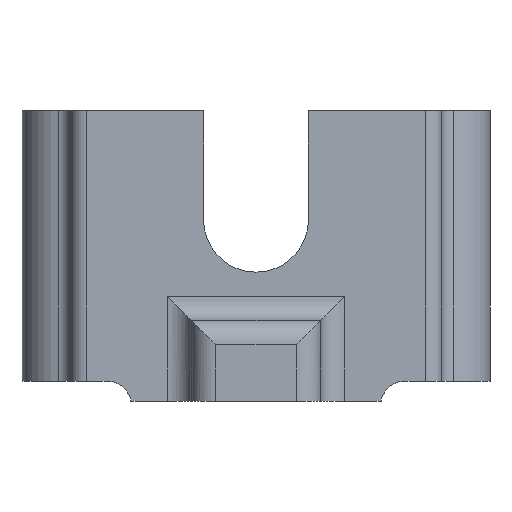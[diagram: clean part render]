
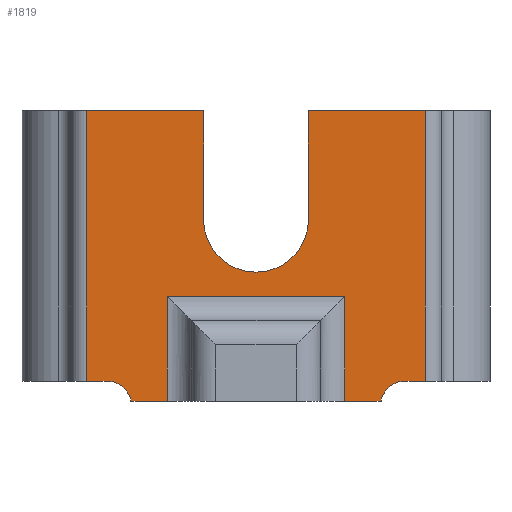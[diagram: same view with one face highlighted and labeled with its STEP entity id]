
A CAD part, front view. The second image highlights one B-rep face of the part: STEP entity #1819.
In plain terms, the highlighted planar face has unit normal (0, -1, 0).
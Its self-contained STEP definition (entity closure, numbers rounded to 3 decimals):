
#2 = VERTEX_POINT ( 'NONE', #800 ) ;
#14 = LINE ( 'NONE', #2446, #2086 ) ;
#15 = LINE ( 'NONE', #469, #2179 ) ;
#72 = ORIENTED_EDGE ( 'NONE', *, *, #557, .F. ) ;
#101 = ORIENTED_EDGE ( 'NONE', *, *, #1072, .F. ) ;
#108 = LINE ( 'NONE', #2270, #775 ) ;
#109 = ORIENTED_EDGE ( 'NONE', *, *, #383, .T. ) ;
#128 = VERTEX_POINT ( 'NONE', #561 ) ;
#130 = CARTESIAN_POINT ( 'NONE',  ( 16.176, -0.642, 16.468 ) ) ;
#158 = CIRCLE ( 'NONE', #885, 6.5 ) ;
#178 = EDGE_LOOP ( 'NONE', ( #2550, #1339, #2568, #1761, #1993, #467, #658, #1454, #475, #2172, #224, #1467, #521, #72, #511, #101, #109 ) ) ;
#186 = VERTEX_POINT ( 'NONE', #2585 ) ;
#207 = AXIS2_PLACEMENT_3D ( 'NONE', #1368, #2181, #376 ) ;
#215 = CARTESIAN_POINT ( 'NONE',  ( 4.227, -0.642, -3.532 ) ) ;
#224 = ORIENTED_EDGE ( 'NONE', *, *, #2467, .F. ) ;
#243 = VECTOR ( 'NONE', #1481, 1000. ) ;
#261 = CARTESIAN_POINT ( 'NONE',  ( 33.666, -0.642, 6.968 ) ) ;
#273 = CARTESIAN_POINT ( 'NONE',  ( 33.666, -0.642, -6.032 ) ) ;
#274 = VERTEX_POINT ( 'NONE', #215 ) ;
#310 = DIRECTION ( 'NONE',  ( 0., 0., -1. ) ) ;
#335 = VERTEX_POINT ( 'NONE', #261 ) ;
#340 = DIRECTION ( 'NONE',  ( 0., -1., 0. ) ) ;
#341 = VERTEX_POINT ( 'NONE', #2256 ) ;
#375 = VERTEX_POINT ( 'NONE', #600 ) ;
#376 = DIRECTION ( 'NONE',  ( 0., 0., -1. ) ) ;
#383 = EDGE_CURVE ( 'NONE', #375, #671, #668, .T. ) ;
#393 = EDGE_CURVE ( 'NONE', #335, #1073, #1696, .T. ) ;
#422 = DIRECTION ( 'NONE',  ( 0., -1., 0. ) ) ;
#436 = EDGE_CURVE ( 'NONE', #341, #871, #1682, .T. ) ;
#455 = EDGE_CURVE ( 'NONE', #186, #2, #108, .T. ) ;
#456 = CARTESIAN_POINT ( 'NONE',  ( 30.666, -0.642, 6.968 ) ) ;
#461 = DIRECTION ( 'NONE',  ( 0., 0., -1. ) ) ;
#467 = ORIENTED_EDGE ( 'NONE', *, *, #737, .T. ) ;
#469 = CARTESIAN_POINT ( 'NONE',  ( 43.666, -0.642, 92.301 ) ) ;
#475 = ORIENTED_EDGE ( 'NONE', *, *, #1550, .F. ) ;
#495 = DIRECTION ( 'NONE',  ( 0., 0., -1. ) ) ;
#511 = ORIENTED_EDGE ( 'NONE', *, *, #951, .T. ) ;
#521 = ORIENTED_EDGE ( 'NONE', *, *, #2243, .T. ) ;
#557 = EDGE_CURVE ( 'NONE', #274, #128, #1352, .T. ) ;
#561 = CARTESIAN_POINT ( 'NONE',  ( 1.685, -0.642, -3.532 ) ) ;
#563 = FACE_OUTER_BOUND ( 'NONE', #178, .T. ) ;
#573 = EDGE_CURVE ( 'NONE', #2257, #1297, #2364, .T. ) ;
#600 = CARTESIAN_POINT ( 'NONE',  ( 11.685, -0.642, -6.032 ) ) ;
#609 = DIRECTION ( 'NONE',  ( 0., 0., 1. ) ) ;
#630 = EDGE_CURVE ( 'NONE', #823, #1297, #1873, .T. ) ;
#655 = CARTESIAN_POINT ( 'NONE',  ( 11.685, -0.642, 92.301 ) ) ;
#658 = ORIENTED_EDGE ( 'NONE', *, *, #2423, .F. ) ;
#668 = LINE ( 'NONE', #655, #942 ) ;
#671 = VERTEX_POINT ( 'NONE', #1472 ) ;
#674 = EDGE_CURVE ( 'NONE', #671, #335, #1591, .T. ) ;
#675 = DIRECTION ( 'NONE',  ( 0., 1., 0. ) ) ;
#732 = AXIS2_PLACEMENT_3D ( 'NONE', #1546, #340, #1394 ) ;
#737 = EDGE_CURVE ( 'NONE', #2257, #2112, #15, .T. ) ;
#743 = DIRECTION ( 'NONE',  ( -1., 0., 0. ) ) ;
#775 = VECTOR ( 'NONE', #495, 1000. ) ;
#800 = CARTESIAN_POINT ( 'NONE',  ( 29.176, -0.642, 16.468 ) ) ;
#810 = LINE ( 'NONE', #1816, #1410 ) ;
#823 = VERTEX_POINT ( 'NONE', #1126 ) ;
#829 = DIRECTION ( 'NONE',  ( 0., 0., -1. ) ) ;
#848 = VECTOR ( 'NONE', #461, 1000. ) ;
#871 = VERTEX_POINT ( 'NONE', #2513 ) ;
#885 = AXIS2_PLACEMENT_3D ( 'NONE', #1651, #422, #2217 ) ;
#912 = CARTESIAN_POINT ( 'NONE',  ( 0., -0.642, -3.532 ) ) ;
#942 = VECTOR ( 'NONE', #1925, 1000. ) ;
#947 = VERTEX_POINT ( 'NONE', #2437 ) ;
#951 = EDGE_CURVE ( 'NONE', #274, #1441, #1834, .T. ) ;
#1011 = DIRECTION ( 'NONE',  ( 1., 0., 0. ) ) ;
#1040 = CARTESIAN_POINT ( 'NONE',  ( 43.666, -0.642, 29.968 ) ) ;
#1072 = EDGE_CURVE ( 'NONE', #375, #1441, #1719, .T. ) ;
#1073 = VERTEX_POINT ( 'NONE', #1322 ) ;
#1126 = CARTESIAN_POINT ( 'NONE',  ( 38.166, -0.642, -6.032 ) ) ;
#1192 = DIRECTION ( 'NONE',  ( -1., 0., 0. ) ) ;
#1259 = DIRECTION ( 'NONE',  ( 1., 0., 0. ) ) ;
#1294 = CARTESIAN_POINT ( 'NONE',  ( 22.676, -0.642, 16.468 ) ) ;
#1297 = VERTEX_POINT ( 'NONE', #2226 ) ;
#1322 = CARTESIAN_POINT ( 'NONE',  ( 33.666, -0.642, -6.032 ) ) ;
#1327 = DIRECTION ( 'NONE',  ( -1., 0., 0. ) ) ;
#1339 = ORIENTED_EDGE ( 'NONE', *, *, #393, .T. ) ;
#1352 = LINE ( 'NONE', #912, #1961 ) ;
#1368 = CARTESIAN_POINT ( 'NONE',  ( 41.124, -0.642, -6.532 ) ) ;
#1394 = DIRECTION ( 'NONE',  ( 0., 0., -1. ) ) ;
#1410 = VECTOR ( 'NONE', #1192, 1000. ) ;
#1441 = VERTEX_POINT ( 'NONE', #2107 ) ;
#1453 = VERTEX_POINT ( 'NONE', #130 ) ;
#1454 = ORIENTED_EDGE ( 'NONE', *, *, #455, .T. ) ;
#1467 = ORIENTED_EDGE ( 'NONE', *, *, #436, .F. ) ;
#1472 = CARTESIAN_POINT ( 'NONE',  ( 11.685, -0.642, 6.968 ) ) ;
#1481 = DIRECTION ( 'NONE',  ( 1., 0., 0. ) ) ;
#1512 = CARTESIAN_POINT ( 'NONE',  ( 43.666, -0.642, -3.532 ) ) ;
#1522 = DIRECTION ( 'NONE',  ( -1., 0., 0. ) ) ;
#1546 = CARTESIAN_POINT ( 'NONE',  ( 0., -0.642, 92.301 ) ) ;
#1550 = EDGE_CURVE ( 'NONE', #947, #2, #1929, .T. ) ;
#1591 = LINE ( 'NONE', #456, #2176 ) ;
#1603 = DIRECTION ( 'NONE',  ( 0., 0., -1. ) ) ;
#1651 = CARTESIAN_POINT ( 'NONE',  ( 22.676, -0.642, 16.468 ) ) ;
#1662 = VECTOR ( 'NONE', #743, 1000. ) ;
#1682 = LINE ( 'NONE', #1882, #243 ) ;
#1692 = LINE ( 'NONE', #1905, #848 ) ;
#1696 = LINE ( 'NONE', #273, #1703 ) ;
#1703 = VECTOR ( 'NONE', #310, 1000. ) ;
#1719 = LINE ( 'NONE', #2526, #2515 ) ;
#1733 = CARTESIAN_POINT ( 'NONE',  ( 0., -0.642, -3.532 ) ) ;
#1761 = ORIENTED_EDGE ( 'NONE', *, *, #630, .T. ) ;
#1786 = EDGE_CURVE ( 'NONE', #823, #1073, #810, .T. ) ;
#1816 = CARTESIAN_POINT ( 'NONE',  ( 0., -0.642, -6.032 ) ) ;
#1819 = ADVANCED_FACE ( 'NONE', ( #563 ), #2169, .T. ) ;
#1822 = LINE ( 'NONE', #2203, #1956 ) ;
#1834 = CIRCLE ( 'NONE', #2093, 3. ) ;
#1873 = CIRCLE ( 'NONE', #207, 3. ) ;
#1882 = CARTESIAN_POINT ( 'NONE',  ( 0., -0.642, 29.968 ) ) ;
#1905 = CARTESIAN_POINT ( 'NONE',  ( 1.685, -0.642, -3.532 ) ) ;
#1925 = DIRECTION ( 'NONE',  ( 0., 0., 1. ) ) ;
#1929 = CIRCLE ( 'NONE', #2316, 6.5 ) ;
#1956 = VECTOR ( 'NONE', #1011, 1000. ) ;
#1961 = VECTOR ( 'NONE', #1327, 1000. ) ;
#1993 = ORIENTED_EDGE ( 'NONE', *, *, #573, .F. ) ;
#2003 = EDGE_CURVE ( 'NONE', #1453, #947, #158, .T. ) ;
#2086 = VECTOR ( 'NONE', #1603, 1000. ) ;
#2093 = AXIS2_PLACEMENT_3D ( 'NONE', #2238, #675, #829 ) ;
#2107 = CARTESIAN_POINT ( 'NONE',  ( 7.185, -0.642, -6.032 ) ) ;
#2112 = VERTEX_POINT ( 'NONE', #1040 ) ;
#2169 = PLANE ( 'NONE',  #732 ) ;
#2172 = ORIENTED_EDGE ( 'NONE', *, *, #2003, .F. ) ;
#2176 = VECTOR ( 'NONE', #1259, 1000. ) ;
#2179 = VECTOR ( 'NONE', #609, 1000. ) ;
#2181 = DIRECTION ( 'NONE',  ( 0., 1., 0. ) ) ;
#2203 = CARTESIAN_POINT ( 'NONE',  ( 0., -0.642, 29.968 ) ) ;
#2217 = DIRECTION ( 'NONE',  ( 0., 0., -1. ) ) ;
#2226 = CARTESIAN_POINT ( 'NONE',  ( 41.124, -0.642, -3.532 ) ) ;
#2238 = CARTESIAN_POINT ( 'NONE',  ( 4.227, -0.642, -6.532 ) ) ;
#2243 = EDGE_CURVE ( 'NONE', #341, #128, #1692, .T. ) ;
#2256 = CARTESIAN_POINT ( 'NONE',  ( 1.685, -0.642, 29.968 ) ) ;
#2257 = VERTEX_POINT ( 'NONE', #1512 ) ;
#2270 = CARTESIAN_POINT ( 'NONE',  ( 29.176, -0.642, 92.301 ) ) ;
#2316 = AXIS2_PLACEMENT_3D ( 'NONE', #1294, #2525, #2320 ) ;
#2320 = DIRECTION ( 'NONE',  ( 0., 0., -1. ) ) ;
#2364 = LINE ( 'NONE', #1733, #1662 ) ;
#2423 = EDGE_CURVE ( 'NONE', #186, #2112, #1822, .T. ) ;
#2437 = CARTESIAN_POINT ( 'NONE',  ( 22.676, -0.642, 9.968 ) ) ;
#2446 = CARTESIAN_POINT ( 'NONE',  ( 16.176, -0.642, 92.301 ) ) ;
#2467 = EDGE_CURVE ( 'NONE', #871, #1453, #14, .T. ) ;
#2513 = CARTESIAN_POINT ( 'NONE',  ( 16.176, -0.642, 29.968 ) ) ;
#2515 = VECTOR ( 'NONE', #1522, 1000. ) ;
#2525 = DIRECTION ( 'NONE',  ( 0., -1., 0. ) ) ;
#2526 = CARTESIAN_POINT ( 'NONE',  ( 0., -0.642, -6.032 ) ) ;
#2550 = ORIENTED_EDGE ( 'NONE', *, *, #674, .T. ) ;
#2568 = ORIENTED_EDGE ( 'NONE', *, *, #1786, .F. ) ;
#2585 = CARTESIAN_POINT ( 'NONE',  ( 29.176, -0.642, 29.968 ) ) ;
